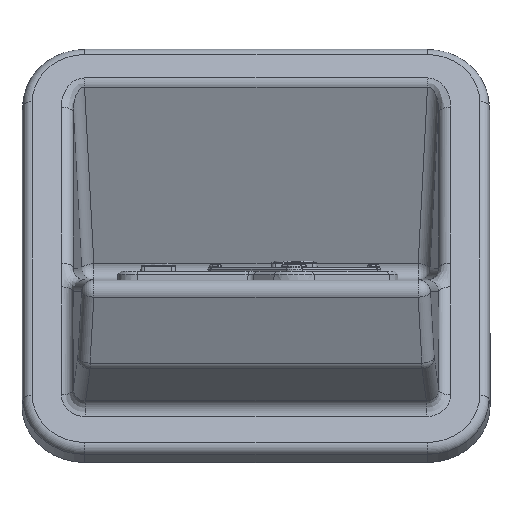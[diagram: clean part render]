
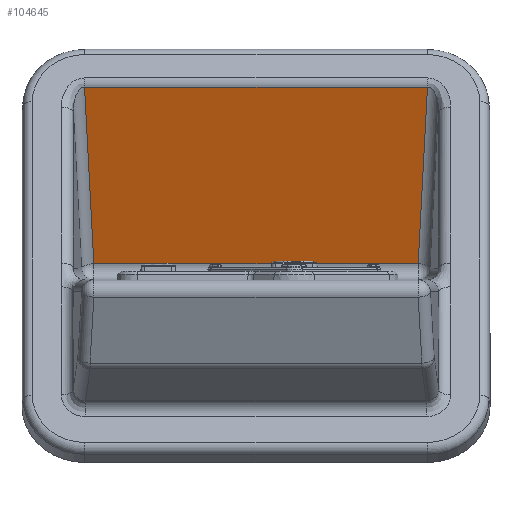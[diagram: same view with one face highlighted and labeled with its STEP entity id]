
A CAD part, front view. The second image highlights one B-rep face of the part: STEP entity #104645.
In plain terms, the highlighted planar face has unit normal (0, -0.945, -0.328).
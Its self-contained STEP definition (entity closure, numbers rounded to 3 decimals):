
#886 = LINE ( 'NONE', #86364, #11895 ) ;
#2184 = DIRECTION ( 'NONE',  ( 0., 0.328, -0.945 ) ) ;
#3746 = FACE_OUTER_BOUND ( 'NONE', #63526, .T. ) ;
#3887 = CARTESIAN_POINT ( 'NONE',  ( -65.564, 52.371, 25.25 ) ) ;
#11895 = VECTOR ( 'NONE', #62602, 1000. ) ;
#13017 = DIRECTION ( 'NONE',  ( 1., 0., 0. ) ) ;
#14021 = DIRECTION ( 'NONE',  ( 0., 0.945, 0.328 ) ) ;
#21371 = AXIS2_PLACEMENT_3D ( 'NONE', #137443, #14021, #2184 ) ;
#24890 = LINE ( 'NONE', #73221, #74191 ) ;
#28011 = EDGE_CURVE ( 'NONE', #91061, #52874, #24890, .T. ) ;
#31660 = ORIENTED_EDGE ( 'NONE', *, *, #54010, .T. ) ;
#42407 = ORIENTED_EDGE ( 'NONE', *, *, #135729, .T. ) ;
#52874 = VERTEX_POINT ( 'NONE', #146908 ) ;
#54010 = EDGE_CURVE ( 'NONE', #91606, #149097, #128536, .T. ) ;
#62458 = ORIENTED_EDGE ( 'NONE', *, *, #28011, .T. ) ;
#62602 = DIRECTION ( 'NONE',  ( 0.05, 0.328, -0.943 ) ) ;
#63526 = EDGE_LOOP ( 'NONE', ( #42407, #31660, #152787, #62458 ) ) ;
#63921 = PLANE ( 'NONE',  #21371 ) ;
#73221 = CARTESIAN_POINT ( 'NONE',  ( 40.284, 52.371, 25.25 ) ) ;
#74191 = VECTOR ( 'NONE', #13017, 1000. ) ;
#86364 = CARTESIAN_POINT ( 'NONE',  ( -68.872, 30.533, 88.066 ) ) ;
#91061 = VERTEX_POINT ( 'NONE', #3887 ) ;
#91606 = VERTEX_POINT ( 'NONE', #123570 ) ;
#98649 = CARTESIAN_POINT ( 'NONE',  ( -68.604, 32.302, 82.979 ) ) ;
#104569 = VECTOR ( 'NONE', #153058, 1000. ) ;
#104645 = ADVANCED_FACE ( 'NONE', ( #3746 ), #63921, .F. ) ;
#105728 = LINE ( 'NONE', #129461, #155457 ) ;
#116692 = CARTESIAN_POINT ( 'NONE',  ( -143.569, 32.302, 82.979 ) ) ;
#123570 = CARTESIAN_POINT ( 'NONE',  ( 43.604, 32.302, 82.979 ) ) ;
#128536 = LINE ( 'NONE', #116692, #104569 ) ;
#129461 = CARTESIAN_POINT ( 'NONE',  ( 43.225, 34.804, 75.781 ) ) ;
#131832 = DIRECTION ( 'NONE',  ( 0.05, -0.328, 0.943 ) ) ;
#135729 = EDGE_CURVE ( 'NONE', #52874, #91606, #105728, .T. ) ;
#137443 = CARTESIAN_POINT ( 'NONE',  ( -143.569, 31.753, 84.557 ) ) ;
#146908 = CARTESIAN_POINT ( 'NONE',  ( 40.564, 52.371, 25.25 ) ) ;
#147223 = EDGE_CURVE ( 'NONE', #149097, #91061, #886, .T. ) ;
#149097 = VERTEX_POINT ( 'NONE', #98649 ) ;
#152787 = ORIENTED_EDGE ( 'NONE', *, *, #147223, .T. ) ;
#153058 = DIRECTION ( 'NONE',  ( -1., 0., 0. ) ) ;
#155457 = VECTOR ( 'NONE', #131832, 1000. ) ;
